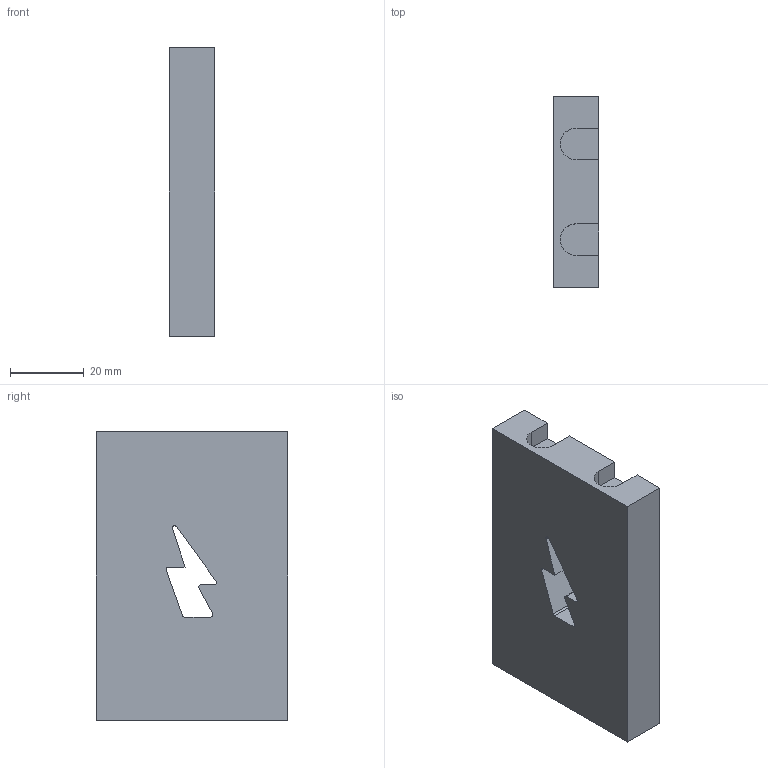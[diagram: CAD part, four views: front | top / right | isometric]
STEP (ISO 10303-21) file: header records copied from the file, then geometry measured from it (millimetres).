
FILE_DESCRIPTION (( 'STEP AP203' ), '1' );
FILE_NAME ('Section_B1.STEP', '2026-07-26T18:14:00', ( '' ), ( '' ), 'SwSTEP 2.0', 'SolidWorks 2024', '' );
FILE_SCHEMA (( 'CONFIG_CONTROL_DESIGN' ));
Length unit declared in the file: inch
Products named in the file (1): Section_B1
Bounding box: 12.34 x 51.82 x 78.08 mm (x, y, z)
Volume: 45478.9 mm3; surface area: 12396 mm2
Topology: 1 solids, 1 shells, 46 faces, 132 edges, 88 vertices
Faces by surface type: plane 31, cylinder 15
Entity records: 1589 total; most frequent: CARTESIAN_POINT 267, ORIENTED_EDGE 264, DIRECTION 256, EDGE_CURVE 132, LINE 102, VECTOR 102, VERTEX_POINT 88, AXIS2_PLACEMENT_3D 77
